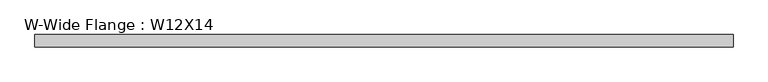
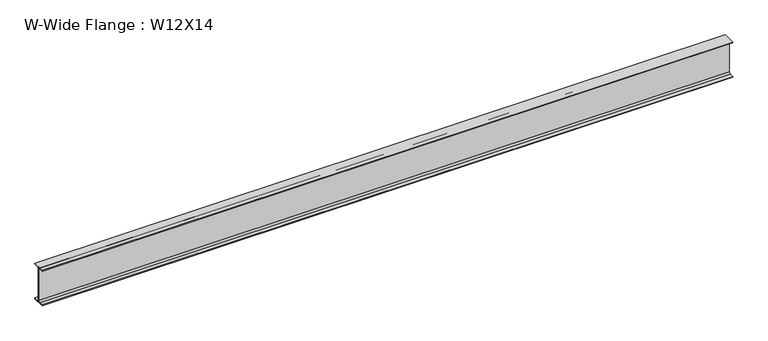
"""IFC4 building model written with IfcOpenShell, lengths in millimetres: beam geometry, W-Wide Flange : W12X14."""

from ifc_helpers import new_model, si_unit, point, frame, frame_2d, origin, place, context, project, spatial, polyline, circle_curve, trimmed, segment, composite_curve, outline, extrude, source, transform, mapped, element, save


def w_wide_flange_w12x14_7ca4a03d(model_context):
    return source(origin(), model_context, "Body", "SweptSolid", [
        extrude(outline(composite_curve([segment(polyline([(50.419, -145.415), (50.419, -151.13), (-50.419, -151.13), (-50.419, -145.415), (-15.875, -145.415)]), True, "CONTINUOUS"), segment(trimmed(circle_curve(frame_2d((-15.875, -132.08)), 13.335), [point((-15.875, -145.415))], [point((-2.54, -132.08))], True, "CARTESIAN"), True, "CONTINUOUS"), segment(polyline([(-2.54, -132.08), (-2.54, 132.08)]), True, "CONTINUOUS"), segment(trimmed(circle_curve(frame_2d((-15.875, 132.08)), 13.335), [point((-2.54, 132.08))], [point((-15.875, 145.415))], True, "CARTESIAN"), True, "CONTINUOUS"), segment(polyline([(-15.875, 145.415), (-50.419, 145.415), (-50.419, 151.13), (50.419, 151.13), (50.419, 145.415), (15.875, 145.415)]), True, "CONTINUOUS"), segment(trimmed(circle_curve(frame_2d((15.875, 132.08)), 13.335), [point((15.875, 145.415))], [point((2.54, 132.08))], True, "CARTESIAN"), True, "CONTINUOUS"), segment(polyline([(2.54, 132.08), (2.54, -132.08)]), True, "CONTINUOUS"), segment(trimmed(circle_curve(frame_2d((15.875, -132.08)), 13.335), [point((2.54, -132.08))], [point((15.875, -145.415))], True, "CARTESIAN"), True, "CONTINUOUS"), segment(polyline([(15.875, -145.415), (50.419, -145.415)]), True, "CONTINUOUS")], self_intersect=False)), frame((-2791.4047862, 0.0, 0.0), z_axis=(1.0, 0.0, 0.0), x_axis=(0.0, 1.0, 0.0)), (0.0, 0.0, 1.0), 5600.7),
    ])


if __name__ == "__main__":
    model = new_model("IFC4")
    model_context = context("Model", 3, world=origin())
    ifc_project = project(units=[si_unit("LENGTHUNIT", "METRE", prefix="MILLI")], contexts=[model_context])
    site = spatial("IfcSite", under=ifc_project)
    building = spatial("IfcBuilding", under=site)
    placement = place(None, origin())
    w_wide_flange_w12x14_shape = w_wide_flange_w12x14_7ca4a03d(model_context)
    element("IfcBeam", 1, ObjectType="W-Wide Flange : W12X14", at=placement, inside=building, context=model_context, shape_type="MappedRepresentation", body=[
        mapped(w_wide_flange_w12x14_shape, transform((0.0, 0.0, 0.0), x_axis=(1.0, 0.0, 0.0), y_axis=(0.0, 1.0, 0.0), z_axis=(0.0, 0.0, 1.0))),
    ])
    save(model, "model.ifc")
